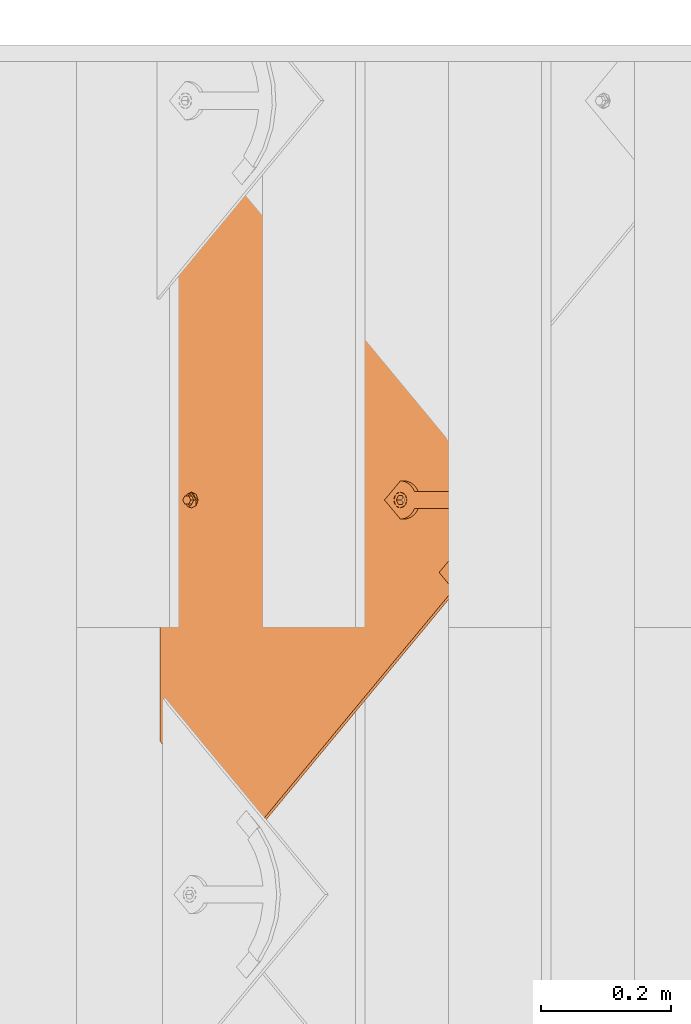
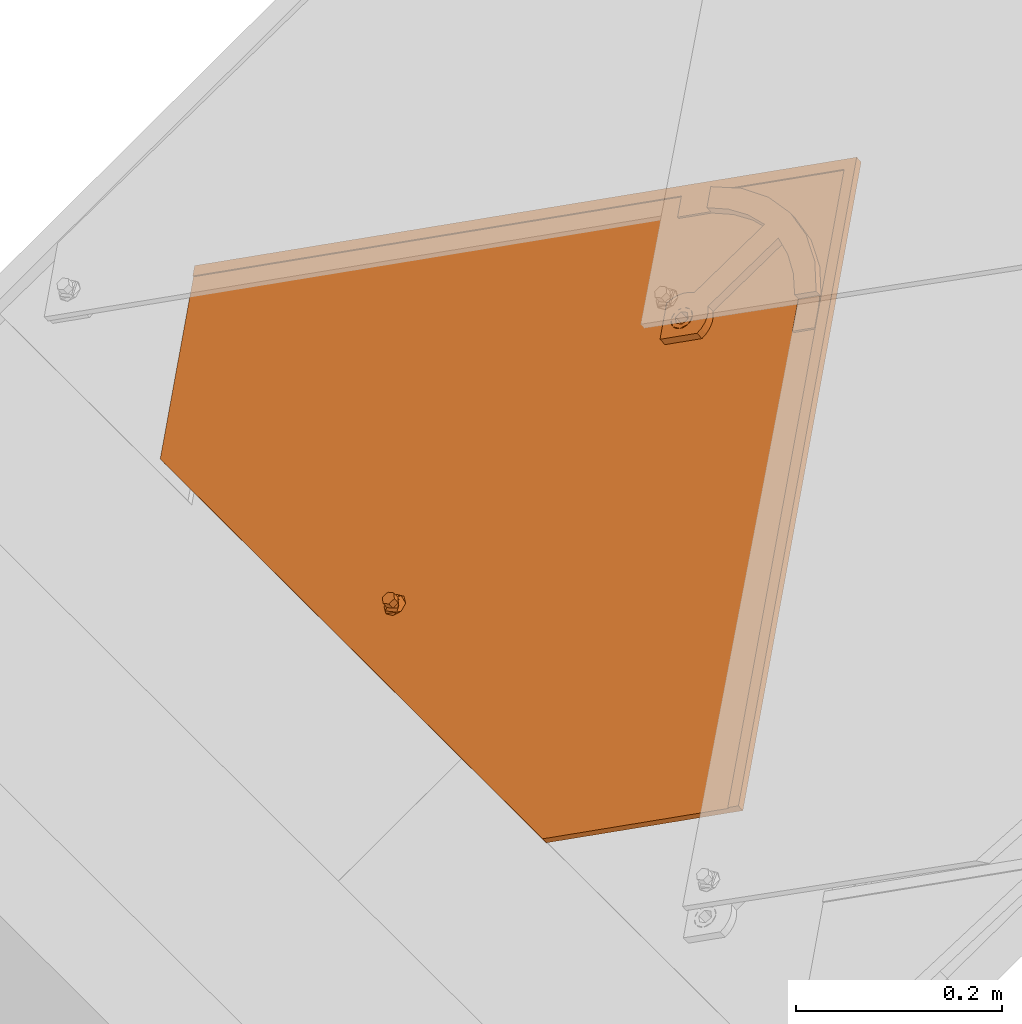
# One storey, part 82 of 133: 1 proxy.
"""IFC2X3 building model written with IfcOpenShell, lengths in millimetres."""

from ifc_helpers import new_model, entity, si_unit, converted_unit, derived_unit, direction, frame, origin, place, context, subcontext, project, spatial, faceted_brep, source, transform, mapped, material, material_list, type_object, type_shapes, element, save


model = new_model("IFC2X3")

# Units and contexts
model_context = context("Model", 3, precision=0.01, world=origin(), true_north=direction((6.12303176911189e-17, 1.0)))
body_context = subcontext(model_context, "Body", "Model", "MODEL_VIEW")
ifc_project = project(units=[si_unit("LENGTHUNIT", "METRE", prefix="MILLI"), si_unit("AREAUNIT", "SQUARE_METRE"), si_unit("VOLUMEUNIT", "CUBIC_METRE"), converted_unit("PLANEANGLEUNIT", "DEGREE", entity("IfcRatioMeasure", 0.0174532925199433), si_unit("PLANEANGLEUNIT", "RADIAN"), dimensions=[0, 0, 0, 0, 0, 0, 0]), si_unit("MASSUNIT", "GRAM", prefix="KILO"), derived_unit("MASSDENSITYUNIT", [(si_unit("MASSUNIT", "GRAM", prefix="KILO"), 1), (si_unit("LENGTHUNIT", "METRE"), -3)]), si_unit("TIMEUNIT", "SECOND"), si_unit("FREQUENCYUNIT", "HERTZ"), si_unit("THERMODYNAMICTEMPERATUREUNIT", "DEGREE_CELSIUS"), derived_unit("THERMALTRANSMITTANCEUNIT", [(si_unit("MASSUNIT", "GRAM", prefix="KILO"), 1), (si_unit("THERMODYNAMICTEMPERATUREUNIT", "KELVIN"), -1), (si_unit("TIMEUNIT", "SECOND"), -3)]), derived_unit("VOLUMETRICFLOWRATEUNIT", [(si_unit("LENGTHUNIT", "METRE"), 3), (si_unit("TIMEUNIT", "SECOND"), -1)]), si_unit("ELECTRICCURRENTUNIT", "AMPERE"), si_unit("ELECTRICVOLTAGEUNIT", "VOLT"), si_unit("POWERUNIT", "WATT"), si_unit("FORCEUNIT", "NEWTON", prefix="KILO"), si_unit("ILLUMINANCEUNIT", "LUX"), si_unit("LUMINOUSFLUXUNIT", "LUMEN"), si_unit("LUMINOUSINTENSITYUNIT", "CANDELA"), derived_unit("USERDEFINED", [(si_unit("MASSUNIT", "GRAM", prefix="KILO"), -1), (si_unit("LENGTHUNIT", "METRE"), -2), (si_unit("TIMEUNIT", "SECOND"), 3), (si_unit("LUMINOUSFLUXUNIT", "LUMEN"), 1)]), derived_unit("LINEARVELOCITYUNIT", [(si_unit("LENGTHUNIT", "METRE"), 1), (si_unit("TIMEUNIT", "SECOND"), -1)]), si_unit("PRESSUREUNIT", "PASCAL"), derived_unit("USERDEFINED", [(si_unit("LENGTHUNIT", "METRE"), -2), (si_unit("MASSUNIT", "GRAM", prefix="KILO"), 1), (si_unit("TIMEUNIT", "SECOND"), -2)])], contexts=[model_context])

# Site, building, storey
site_placement = place(None, origin())
site = spatial("IfcSite", under=ifc_project, at=site_placement, Name="Default", CompositionType="ELEMENT")
building_placement = place(site_placement, origin())
building = spatial("IfcBuilding", under=site, at=building_placement, CompositionType="ELEMENT")
storey_placement = place(building_placement, origin())
storey = spatial("IfcBuildingStorey", under=building, at=storey_placement, Name="Level 1", CompositionType="ELEMENT", Elevation=0.0)

# Proxy
ifc_material_1 = material(Name="Rubber - Sunstyle - Black")
ifc_material_2 = material(Name="Glass - Sunstyle - Tainted Black")
ifc_material_list_1 = material_list([ifc_material_1, ifc_material_2])
ifc_material_list_2 = material_list([ifc_material_1, ifc_material_2])
building_element_proxy_type = type_object("IfcBuildingElementProxyType", Name="Shingle Bottom - Black", PredefinedType="NOTDEFINED", material=ifc_material_list_2)
shared_shape = source(origin(), body_context, "Body", "Brep", [
    faceted_brep([(0.0, -1.79273515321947, -4.01619789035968), (-5.7742028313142, -5.12600528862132, -3.96037390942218), (-5.77420283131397, -4.75769619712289, 18.0314954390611), (0.0, -1.42442606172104, 17.9756714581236), (-5.77420283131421, -11.792545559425, -3.84872594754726), (-5.77420283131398, -11.4242364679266, 18.143143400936), (0.0, -15.1258156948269, -3.79290196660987), (0.0, -14.7575066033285, 18.1989673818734), (5.77420283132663, -11.7925455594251, -3.84872594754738), (5.77420283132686, -11.4242364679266, 18.1431434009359), (5.77420283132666, -5.12600528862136, -3.96037390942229), (5.77420283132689, -4.75769619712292, 18.031495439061), (-8.60370416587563, -16.6934641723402, 18.2313898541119), (0.0, -20.2567354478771, 18.2910657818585), (-12.1674751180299, -8.09096633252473, 18.0873194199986), (-8.60370416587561, 0.511531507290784, 17.9432489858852), (0.0, 4.07480278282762, 17.8835730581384), (8.60370416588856, 0.511531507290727, 17.9432489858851), (12.1674751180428, -8.09096633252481, 18.0873194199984), (8.60370416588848, -16.6934641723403, 18.2313898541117), (-11.4302228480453, -6.71737066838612, 20.4858706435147), (-9.77051349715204, -8.02009729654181, 22.3189355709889), (0.0, -0.706876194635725, 22.9603444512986), (0.0, 0.533621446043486, 22.3799978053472), (0.0, 2.69117229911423, 21.3706227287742), (-6.32324569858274, -4.35709193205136, 23.021476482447), (-6.32324569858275, -11.6575234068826, 23.1437405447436), (0.0, -18.7571148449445, 21.7298281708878), (0.0, -15.3077391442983, 23.2048725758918), (10.9851748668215, -11.808022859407, 20.3827540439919), (10.123850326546, -8.02413622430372, 22.0777687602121), (6.32324569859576, -4.3570919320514, 23.0214764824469), (6.32324569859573, -11.6575234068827, 23.1437405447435), (-6.32324569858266, -11.5234949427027, 31.146628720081), (0.0, -15.1737106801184, 31.2077607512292), (0.0, -7.8732792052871, 31.0854966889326), (-6.32324569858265, -4.22306346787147, 31.0243646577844), (6.32324569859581, -11.5234949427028, 31.1466287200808), (6.32324569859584, -4.22306346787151, 31.0243646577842), (0.0, -0.57284773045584, 30.963232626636), (0.0, -8.45927542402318, -3.90454992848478)], [[[0, 1, 2, 3]], [[1, 4, 5, 2]], [[4, 6, 7, 5]], [[6, 8, 9, 7]], [[8, 10, 11, 9]], [[10, 0, 3, 11]], [[12, 7, 13]], [[7, 12, 5]], [[14, 5, 12]], [[5, 14, 2]], [[15, 2, 14]], [[3, 2, 15]], [[15, 16, 3]], [[16, 17, 3]], [[11, 3, 17]], [[11, 17, 18]], [[9, 11, 18]], [[18, 19, 9]], [[7, 9, 19]], [[19, 13, 7]], [[15, 20, 16]], [[21, 22, 23, 24]], [[22, 21, 25]], [[20, 14, 12]], [[15, 14, 20]], [[25, 21, 26]], [[20, 24, 16]], [[12, 13, 27]], [[12, 27, 20]], [[21, 28, 26]], [[21, 27, 28]], [[20, 21, 24]], [[20, 27, 21]], [[19, 29, 13]], [[30, 23, 31]], [[30, 28, 27]], [[24, 23, 30]], [[29, 27, 13]], [[19, 18, 29]], [[29, 30, 27]], [[29, 17, 24]], [[24, 17, 16]], [[31, 32, 30]], [[23, 22, 31]], [[28, 30, 32]], [[29, 24, 30]], [[29, 18, 17]], [[33, 34, 35]], [[35, 36, 33]], [[34, 37, 35]], [[38, 35, 37]], [[35, 38, 39]], [[35, 39, 36]], [[40, 6, 4]], [[4, 1, 40]], [[1, 0, 40]], [[40, 8, 6]], [[0, 10, 40]], [[8, 40, 10]], [[22, 25, 36, 39]], [[25, 26, 33, 36]], [[26, 28, 34, 33]], [[28, 32, 37, 34]], [[32, 31, 38, 37]], [[31, 22, 39, 38]]]),
    faceted_brep([(0.0, 372.824876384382, 20.3195200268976), (0.0, 377.324245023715, 20.2441667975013), (-8.60370416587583, 376.388147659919, 20.2598440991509), (8.60370416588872, 376.388147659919, 20.2598440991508), (6.64022859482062, 381.157445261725, 20.1799702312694), (12.1674751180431, 384.990645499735, 20.1157736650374), (6.64022859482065, 388.823845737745, 20.0515770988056), (8.6037041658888, 393.59314333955, 19.9717032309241), (0.0, 392.657045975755, 19.9873805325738), (0.0, 397.156414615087, 19.9120273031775), (-8.60370416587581, 393.59314333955, 19.9717032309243), (-6.64022859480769, 388.823845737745, 20.0515770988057), (-12.1674751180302, 384.990645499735, 20.1157736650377), (-6.6402285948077, 381.157445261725, 20.1799702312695), (-6.6402282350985, 388.555922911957, 4.05382046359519), (0.0, 392.389122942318, 3.98962390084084), (-6.64022823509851, 380.889522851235, 4.18221358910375), (0.0, 377.056322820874, 4.24641015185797), (6.64022823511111, 380.889522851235, 4.18221358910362), (6.64022823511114, 388.555922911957, 4.05382046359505), (-8.603704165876, 376.12022504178, 4.26208746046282), (0.0, 372.556953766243, 4.32176338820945), (-12.1674751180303, 384.722722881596, 4.11801702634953), (-8.60370416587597, 393.325220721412, 3.97394659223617), (0.0, 396.888491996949, 3.91427066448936), (8.60370416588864, 393.325220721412, 3.97394659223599), (12.1674751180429, 384.722722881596, 4.11801702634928), (8.60370416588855, 376.12022504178, 4.26208746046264)], [[[0, 1, 2]], [[1, 0, 3]], [[3, 4, 1]], [[4, 3, 5]], [[6, 4, 5]], [[5, 7, 6]], [[7, 8, 6]], [[8, 7, 9]], [[8, 9, 10]], [[10, 11, 8]], [[12, 11, 10]], [[2, 13, 12]], [[12, 13, 11]], [[13, 2, 1]], [[8, 11, 14, 15]], [[11, 13, 16, 14]], [[13, 1, 17, 16]], [[1, 4, 18, 17]], [[4, 6, 19, 18]], [[6, 8, 15, 19]], [[20, 17, 21]], [[17, 20, 16]], [[22, 16, 20]], [[14, 16, 22]], [[23, 14, 22]], [[15, 14, 23]], [[23, 24, 15]], [[24, 25, 15]], [[19, 15, 25]], [[19, 25, 26]], [[26, 18, 19]], [[26, 27, 18]], [[17, 18, 27]], [[27, 21, 17]], [[24, 23, 10, 9]], [[10, 23, 22, 12]], [[20, 21, 0, 2]], [[20, 2, 12, 22]], [[21, 27, 3, 0]], [[3, 27, 26, 5]], [[25, 24, 9, 7]], [[25, 7, 5, 26]]]),
    faceted_brep([(518.247351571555, 79.9143812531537, 14.965257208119), (526.732038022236, 88.3990677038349, 14.8231598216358), (526.732038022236, 88.4241854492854, 16.3229495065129), (518.247351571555, 79.9394989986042, 16.4650468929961), (0.000322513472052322, 598.016093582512, 6.28834266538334), (-518.246706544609, 79.9143812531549, 14.9652572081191), (-526.73139299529, 88.3990677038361, 14.8231598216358), (0.000322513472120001, 614.983087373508, 6.00418773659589), (0.000322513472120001, 615.008205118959, 7.50397742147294), (-526.731392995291, 88.4241854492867, 16.3229495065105), (-518.246706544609, 79.9394989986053, 16.465046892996), (0.000322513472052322, 598.041211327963, 7.78813235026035)], [[[0, 1, 2, 3]], [[1, 0, 4, 5, 6, 7]], [[2, 1, 7, 8]], [[3, 2, 8, 9, 10, 11]], [[0, 3, 11, 4]], [[5, 10, 9, 6]], [[8, 7, 6, 9]], [[4, 11, 10, 5]]]),
    faceted_brep([(0.00032251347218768, 614.983087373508, 6.00418773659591), (-2.87802047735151, 396.187349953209, 9.66847193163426), (0.227808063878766, 396.596182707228, 9.6616250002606), (-5.77219193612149, 394.988712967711, 9.68854611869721), (3.3336366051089, 396.187349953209, 9.66847193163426), (6.22780806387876, 394.988712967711, 9.6885461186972), (8.71308943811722, 393.081956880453, 9.72047953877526), (10.620112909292, 390.59702396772, 9.76209598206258), (-8.25747331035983, 393.081956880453, 9.72047953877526), (-10.1644967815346, 390.59702396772, 9.76209598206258), (-11.3633018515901, 387.703258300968, 9.81055935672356), (-526.731392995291, 88.3990677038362, 14.8231598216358), (11.8189179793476, 387.703258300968, 9.81055935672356), (526.732038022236, 88.3990677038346, 14.8231598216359), (-11.7721919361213, 384.597865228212, 9.86256696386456), (-11.3633018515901, 381.492472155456, 9.91457457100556), (-10.1644967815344, 378.598706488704, 9.96303794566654), (-370.355016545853, -67.9334607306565, 17.4413406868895), (-8.25747331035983, 376.113773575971, 10.0046543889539), (-5.65685424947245, -2.29422365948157, 16.3420467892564), (-6.92820323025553, -3.95084560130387, 16.3697910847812), (-7.72740661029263, -5.88002271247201, 16.4021000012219), (-8.0, -7.95028476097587, 16.4367717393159), (-7.72740661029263, -10.0205468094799, 16.4714434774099), (-6.9282032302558, -11.9497239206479, 16.5037523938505), (-5.65685424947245, -13.6063458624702, 16.5314966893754), (-4.0, -14.8775165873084, 16.5527856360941), (-2.07055236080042, -15.676607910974, 16.5661684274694), (0.0, -15.9491630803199, 16.5707330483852), (370.355661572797, -67.9334607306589, 17.4413406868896), (10.620112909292, 378.598706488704, 9.96303794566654), (8.71308943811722, 376.11377357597, 10.0046543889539), (5.65685424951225, -2.29422365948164, 16.3420467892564), (6.92820323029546, -3.9508456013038, 16.3697910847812), (7.72740661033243, -5.88002271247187, 16.4021000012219), (8.0, -7.9502847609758, 16.4367717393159), (7.72740661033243, -10.0205468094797, 16.4714434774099), (6.92820323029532, -11.9497239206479, 16.5037523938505), (5.65685424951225, -13.6063458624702, 16.5314966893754), (4.0, -14.8775165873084, 16.5527856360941), (2.07055236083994, -15.676607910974, 16.5661684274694), (-5.77219193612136, 374.207017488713, 10.0365878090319), (-4.0, -1.02305293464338, 16.3207578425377), (-2.87802047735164, 373.008380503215, 10.0566619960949), (-2.07055236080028, -0.223961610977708, 16.3073750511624), (0.227808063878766, 372.599547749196, 10.0635089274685), (0.0, 0.0485935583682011, 16.3028104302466), (2.07055236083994, -0.223961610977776, 16.3073750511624), (3.3336366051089, 373.008380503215, 10.0566619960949), (4.0, -1.02305293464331, 16.3207578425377), (6.22780806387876, 374.207017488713, 10.0365878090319), (12.2278080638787, 384.597865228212, 9.86256696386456), (11.8189179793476, 381.492472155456, 9.91457457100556), (-370.355016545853, -68.059049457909, 9.94239226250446), (-6.92820323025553, -4.07643432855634, 8.87084266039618), (-7.72740661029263, -6.00561143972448, 8.90315157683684), (-8.0, -8.07587348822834, 8.93782331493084), (-7.72740661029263, -10.1461355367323, 8.97249505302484), (-6.9282032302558, -12.0753126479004, 9.00480396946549), (-5.65685424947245, -13.7319345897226, 9.03254826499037), (-5.65685424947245, -2.41981238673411, 8.8430983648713), (-8.25747331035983, 375.988184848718, 2.50570596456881), (-4.0, -15.0031053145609, 9.05383721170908), (-2.07055236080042, -15.8021966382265, 9.06722000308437), (0.0, -16.0747518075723, 9.07178462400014), (370.355661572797, -68.0590494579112, 9.9423922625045), (-10.1644967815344, 378.473117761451, 2.46408952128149), (-526.731392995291, 88.2734789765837, 7.32421139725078), (-11.3633018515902, 381.366883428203, 2.41562614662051), (-11.7721919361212, 384.472276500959, 2.36361853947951), (-11.3633018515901, 387.577669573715, 2.3116109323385), (0.00032251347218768, 614.857498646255, -1.49476068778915), (-10.1644967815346, 390.471435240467, 2.26314755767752), (-8.25747331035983, 392.956368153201, 2.22153111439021), (-5.77219193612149, 394.863124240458, 2.18959769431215), (-2.87802047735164, 396.061761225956, 2.16952350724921), (0.227808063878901, 396.470593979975, 2.16267657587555), (3.3336366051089, 396.061761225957, 2.1695235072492), (6.22780806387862, 394.863124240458, 2.18959769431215), (8.71308943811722, 392.956368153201, 2.2215311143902), (10.620112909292, 390.471435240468, 2.26314755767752), (11.8189179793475, 387.577669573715, 2.31161093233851), (526.732038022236, 88.2734789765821, 7.32421139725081), (12.2278080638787, 384.472276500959, 2.3636185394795), (10.620112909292, 378.473117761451, 2.46408952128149), (11.8189179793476, 381.366883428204, 2.41562614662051), (-5.77219193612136, 374.08142876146, 2.53763938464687), (-4.0, -1.14864166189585, 8.8218094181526), (-2.87802047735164, 372.882791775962, 2.55771357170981), (-2.07055236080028, -0.349550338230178, 8.8084266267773), (0.227808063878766, 372.473959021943, 2.56456050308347), (0.0, -0.0769951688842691, 8.80386200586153), (2.07055236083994, -0.349550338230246, 8.8084266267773), (3.3336366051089, 372.882791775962, 2.55771357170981), (4.0, -1.14864166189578, 8.8218094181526), (6.22780806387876, 374.081428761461, 2.53763938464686), (5.65685424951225, -2.41981238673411, 8.8430983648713), (8.71308943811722, 375.988184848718, 2.50570596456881), (6.92820323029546, -4.07643432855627, 8.87084266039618), (7.72740661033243, -6.00561143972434, 8.90315157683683), (8.0, -8.07587348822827, 8.93782331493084), (7.72740661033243, -10.1461355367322, 8.97249505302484), (6.92820323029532, -12.0753126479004, 9.00480396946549), (5.65685424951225, -13.7319345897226, 9.03254826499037), (4.0, -15.0031053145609, 9.05383721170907), (2.07055236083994, -15.8021966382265, 9.06722000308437)], [[[0, 1, 2]], [[1, 0, 3]], [[0, 2, 4]], [[4, 5, 0]], [[5, 6, 0]], [[0, 6, 7]], [[8, 3, 0]], [[9, 8, 0]], [[9, 0, 10]], [[10, 0, 11]], [[12, 0, 7]], [[12, 13, 0]], [[11, 14, 10]], [[14, 11, 15]], [[16, 15, 11]], [[11, 17, 16]], [[16, 17, 18]], [[19, 18, 17]], [[19, 17, 20]], [[20, 17, 21]], [[22, 21, 17]], [[22, 17, 23]], [[24, 23, 17]], [[17, 25, 24]], [[26, 25, 17]], [[27, 26, 17]], [[17, 28, 27]], [[28, 17, 29]], [[29, 13, 30]], [[29, 30, 31]], [[29, 31, 32]], [[32, 33, 29]], [[33, 34, 29]], [[35, 29, 34]], [[29, 35, 36]], [[36, 37, 29]], [[29, 37, 38]], [[38, 39, 29]], [[40, 28, 29]], [[39, 40, 29]], [[41, 18, 19]], [[42, 41, 19]], [[42, 43, 41]], [[44, 43, 42]], [[44, 45, 43]], [[46, 45, 44]], [[47, 45, 46]], [[48, 45, 47]], [[49, 48, 47]], [[49, 50, 48]], [[32, 50, 49]], [[32, 31, 50]], [[12, 51, 13]], [[52, 13, 51]], [[13, 52, 30]], [[53, 54, 55]], [[53, 55, 56]], [[56, 57, 53]], [[57, 58, 53]], [[53, 58, 59]], [[60, 54, 53]], [[61, 60, 53]], [[59, 62, 53]], [[62, 63, 53]], [[63, 64, 53]], [[53, 64, 65]], [[66, 61, 53]], [[66, 53, 67]], [[68, 66, 67]], [[69, 68, 67]], [[69, 67, 70]], [[67, 71, 70]], [[72, 70, 71]], [[73, 72, 71]], [[71, 74, 73]], [[74, 71, 75]], [[75, 71, 76]], [[77, 76, 71]], [[77, 71, 78]], [[79, 78, 71]], [[71, 80, 79]], [[80, 71, 81]], [[71, 82, 81]], [[83, 81, 82]], [[84, 82, 65]], [[85, 82, 84]], [[82, 85, 83]], [[86, 60, 61]], [[86, 87, 60]], [[88, 87, 86]], [[89, 87, 88]], [[90, 89, 88]], [[90, 91, 89]], [[92, 91, 90]], [[92, 90, 93]], [[94, 92, 93]], [[93, 95, 94]], [[94, 95, 96]], [[97, 96, 95]], [[96, 97, 65]], [[84, 65, 97]], [[98, 96, 65]], [[99, 98, 65]], [[99, 65, 100]], [[101, 100, 65]], [[102, 101, 65]], [[103, 102, 65]], [[104, 103, 65]], [[105, 104, 65]], [[65, 64, 105]], [[11, 0, 71, 67]], [[17, 11, 67, 53]], [[13, 29, 65, 82]], [[0, 13, 82, 71]], [[22, 56, 55, 21]], [[21, 55, 54, 20]], [[42, 19, 60, 87]], [[60, 19, 20, 54]], [[44, 42, 87, 89]], [[44, 89, 91, 46]], [[46, 91, 92, 47]], [[47, 92, 94, 49]], [[33, 32, 96, 98]], [[96, 32, 49, 94]], [[34, 33, 98, 99]], [[34, 99, 100, 35]], [[35, 100, 101, 36]], [[36, 101, 102, 37]], [[39, 38, 103, 104]], [[103, 38, 37, 102]], [[40, 39, 104, 105]], [[40, 105, 64, 28]], [[28, 64, 63, 27]], [[27, 63, 62, 26]], [[24, 25, 59, 58]], [[59, 25, 26, 62]], [[23, 24, 58, 57]], [[23, 57, 56, 22]], [[14, 69, 70, 10]], [[10, 70, 72, 9]], [[3, 8, 73, 74]], [[73, 8, 9, 72]], [[1, 3, 74, 75]], [[1, 75, 76, 2]], [[2, 76, 77, 4]], [[4, 77, 78, 5]], [[7, 6, 79, 80]], [[79, 6, 5, 78]], [[12, 7, 80, 81]], [[12, 81, 83, 51]], [[51, 83, 85, 52]], [[52, 85, 84, 30]], [[50, 31, 97, 95]], [[97, 31, 30, 84]], [[48, 50, 95, 93]], [[48, 93, 90, 45]], [[45, 90, 88, 43]], [[43, 88, 86, 41]], [[16, 18, 61, 66]], [[41, 86, 61, 18]], [[68, 15, 16, 66]], [[15, 68, 69, 14]], [[29, 17, 53, 65]]]),
    faceted_brep([(-111.269043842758, 451.472531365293, 11.2429332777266), (-84.9443960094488, 477.793488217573, 10.8021227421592), (-102.027571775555, 494.874268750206, 10.5160621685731), (-108.279973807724, 489.512620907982, 10.6058564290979), (-114.2509690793, 483.839345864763, 10.7008696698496), (-128.946713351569, 469.147722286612, 10.9469178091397), (128.946713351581, 469.147722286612, 10.9469178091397), (114.250969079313, 483.839345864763, 10.7008696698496), (108.279973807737, 489.512620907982, 10.6058564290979), (102.027571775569, 494.874268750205, 10.5160621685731), (84.9431983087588, 477.794685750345, 10.802102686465), (111.269043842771, 451.472531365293, 11.2429332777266), (-8.48528137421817, 393.302959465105, 19.7181805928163), (-18.7041061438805, 407.484939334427, 19.4806677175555), (-23.2046504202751, 402.851933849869, 19.5582590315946), (-10.3923048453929, 390.818026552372, 19.7597970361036), (-6.0, 395.209715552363, 19.6862471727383), (-13.2999999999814, 411.02298750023, 19.4214142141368), (-3.10582854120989, 396.408352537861, 19.6661729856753), (0.0, 396.81718529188, 19.6593260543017), (13.3000000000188, 411.022987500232, 19.4214142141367), (3.10582854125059, 396.408352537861, 19.6661729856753), (6.0, 395.209715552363, 19.6862471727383), (18.7041061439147, 407.484939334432, 19.4806677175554), (8.48528137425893, 393.302959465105, 19.7181805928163), (23.2046504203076, 402.85193384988, 19.5582590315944), (10.3923048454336, 390.818026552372, 19.7597970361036), (26.5842195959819, 397.347783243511, 19.6504398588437), (11.5911099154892, 387.92426088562, 19.8082604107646), (28.6795527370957, 391.238383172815, 19.752757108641), (12.0, 384.818867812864, 19.8602680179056), (29.3894280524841, 384.818867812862, 19.8602680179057), (11.5911099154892, 381.713474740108, 19.9122756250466), (10.3923048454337, 378.819709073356, 19.9607389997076), (8.48528137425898, 376.334776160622, 20.0023554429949), (0.0, 355.433560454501, 20.3523987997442), (6.0, 374.428020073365, 20.034288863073), (3.10582854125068, 373.229383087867, 20.0543630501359), (0.0, 372.820550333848, 20.0612099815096), (-3.10582854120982, 373.229383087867, 20.0543630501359), (-6.0, 374.428020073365, 20.034288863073), (-8.48528137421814, 376.334776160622, 20.0023554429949), (-29.3894280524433, 384.818867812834, 19.8602680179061), (-10.3923048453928, 378.819709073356, 19.9607389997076), (-11.5911099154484, 381.713474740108, 19.9122756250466), (-12.0, 384.818867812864, 19.8602680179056), (-28.67955273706, 391.238383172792, 19.7527571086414), (-11.5911099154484, 387.92426088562, 19.8082604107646), (-26.5842195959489, 397.347783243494, 19.650439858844), (-13.2999999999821, 505.810987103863, 17.833951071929), (13.3000000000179, 505.810987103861, 17.833951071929), (0.0, 531.282600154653, 17.4073649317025), (36.4908407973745, 527.108634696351, 17.4772684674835), (38.7697427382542, 500.996106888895, 17.9145883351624), (71.096085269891, 514.802420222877, 17.6833669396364), (62.9243331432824, 491.592473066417, 18.0720758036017), (102.027571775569, 494.999857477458, 18.0150105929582), (84.9443960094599, 477.919076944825, 18.3010711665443), (-36.4908407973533, 527.108634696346, 17.4772684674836), (-38.7697427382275, 500.996106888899, 17.9145883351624), (-71.0960852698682, 514.802420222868, 17.6833669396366), (-62.9243331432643, 491.592473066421, 18.0720758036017), (-102.027571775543, 494.999857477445, 18.0150105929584), (-84.9443960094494, 477.919076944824, 18.3010711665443), (0.0, 355.266108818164, 10.3538009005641), (0.0, 372.653098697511, 10.0626120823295), (3.10582854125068, 373.06193145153, 10.0557651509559), (-3.10582854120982, 373.06193145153, 10.0557651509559), (6.0, 374.260568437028, 10.0356909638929), (8.48528137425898, 376.167324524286, 10.0037575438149), (29.3894280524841, 384.651416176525, 9.86167011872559), (-6.0, 374.260568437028, 10.0356909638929), (-8.48528137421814, 376.167324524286, 10.0037575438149), (-29.3894280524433, 384.651416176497, 9.86167011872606), (-10.3923048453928, 378.652257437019, 9.96214110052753), (-11.5911099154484, 381.546023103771, 9.91367772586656), (-12.0, 384.651416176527, 9.86167011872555), (-28.67955273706, 391.070931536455, 9.75415920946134), (-11.5911099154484, 387.756809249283, 9.80966251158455), (-26.5842195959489, 397.180331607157, 9.65184195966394), (-10.3923048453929, 390.650574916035, 9.76119913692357), (-23.2046504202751, 402.684482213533, 9.5596611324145), (-8.48528137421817, 393.135507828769, 9.71958269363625), (-18.7041061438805, 407.31748769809, 9.48206981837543), (-6.0, 395.042263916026, 9.6876492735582), (-13.2999999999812, 410.855535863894, 9.4228163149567), (-3.10582854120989, 396.240900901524, 9.66757508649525), (0.0, 396.649733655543, 9.66072815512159), (13.3000000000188, 410.855535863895, 9.42281631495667), (-13.2999999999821, 505.643535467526, 7.83535317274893), (13.3000000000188, 505.643535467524, 7.83535317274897), (0.0, 531.115148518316, 7.4087670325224), (-36.4908407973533, 526.94118306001, 7.47867056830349), (-38.7697427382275, 500.828655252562, 7.91599043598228), (-71.0960852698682, 514.634968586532, 7.68476904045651), (-62.9243331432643, 491.425021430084, 8.07347790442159), (-102.027571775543, 494.832405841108, 8.01641269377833), (-84.9431983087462, 477.752822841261, 8.30245321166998), (-108.279973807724, 489.470757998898, 8.10620695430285), (-114.2509690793, 483.79748295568, 8.2012201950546), (-111.269043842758, 451.430668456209, 8.74328380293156), (-128.946713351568, 469.105859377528, 8.44726833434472), (36.4908407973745, 526.941183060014, 7.47867056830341), (38.7697427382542, 500.828655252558, 7.91599043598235), (71.096085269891, 514.634968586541, 7.68476904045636), (62.9243331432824, 491.425021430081, 8.07347790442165), (102.027571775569, 494.832405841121, 8.01641269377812), (84.9443960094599, 477.751625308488, 8.30247326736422), (108.279973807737, 489.470757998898, 8.10620695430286), (114.250969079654, 483.797482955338, 8.20122019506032), (111.269043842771, 451.430668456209, 8.74328380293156), (128.946713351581, 469.105859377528, 8.44726833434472), (3.10582854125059, 396.240900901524, 9.66757508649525), (6.0, 395.042263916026, 9.6876492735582), (18.7041061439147, 407.317487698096, 9.48206981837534), (8.48528137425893, 393.135507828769, 9.71958269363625), (23.2046504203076, 402.684482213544, 9.55966113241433), (10.3923048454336, 390.650574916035, 9.76119913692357), (26.5842195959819, 397.180331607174, 9.65184195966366), (11.5911099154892, 387.756809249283, 9.80966251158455), (28.6795527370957, 391.070931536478, 9.75415920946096), (12.0, 384.651416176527, 9.86167011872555), (11.5911099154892, 381.546023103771, 9.91367772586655), (10.3923048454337, 378.652257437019, 9.96214110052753)], [[[0, 1, 2, 3, 4, 5]], [[6, 7, 8, 9, 10, 11]], [[12, 13, 14]], [[15, 12, 14]], [[16, 13, 12]], [[13, 16, 17]], [[17, 16, 18]], [[18, 19, 17]], [[20, 17, 19]], [[19, 21, 20]], [[22, 20, 21]], [[22, 23, 20]], [[22, 24, 23]], [[25, 23, 24]], [[26, 25, 24]], [[25, 26, 27]], [[26, 28, 27]], [[29, 27, 28]], [[28, 30, 29]], [[31, 29, 30]], [[30, 32, 31]], [[32, 33, 31]], [[31, 33, 34]], [[34, 35, 31]], [[34, 36, 35]], [[37, 35, 36]], [[38, 35, 37]], [[35, 38, 39]], [[40, 35, 39]], [[40, 41, 35]], [[42, 35, 41]], [[43, 42, 41]], [[43, 44, 42]], [[44, 45, 42]], [[45, 46, 42]], [[46, 45, 47]], [[48, 46, 47]], [[47, 15, 48]], [[48, 15, 14]], [[20, 49, 17]], [[49, 20, 50]], [[51, 49, 50]], [[50, 52, 51]], [[53, 52, 50]], [[52, 53, 54]], [[55, 54, 53]], [[54, 55, 56]], [[55, 57, 56]], [[58, 49, 51]], [[49, 58, 59]], [[60, 59, 58]], [[60, 61, 59]], [[61, 60, 62]], [[61, 62, 63]], [[64, 65, 66]], [[65, 64, 67]], [[64, 66, 68]], [[68, 69, 64]], [[64, 69, 70]], [[71, 67, 64]], [[71, 64, 72]], [[72, 64, 73]], [[73, 74, 72]], [[74, 73, 75]], [[76, 75, 73]], [[77, 76, 73]], [[76, 77, 78]], [[78, 77, 79]], [[80, 78, 79]], [[81, 80, 79]], [[82, 80, 81]], [[81, 83, 82]], [[83, 84, 82]], [[84, 83, 85]], [[85, 86, 84]], [[87, 86, 85]], [[87, 85, 88]], [[88, 85, 89]], [[88, 89, 90]], [[89, 91, 90]], [[91, 89, 92]], [[93, 92, 89]], [[94, 92, 93]], [[93, 95, 94]], [[95, 96, 94]], [[97, 96, 95]], [[98, 96, 97]], [[99, 98, 97]], [[97, 100, 99]], [[101, 99, 100]], [[102, 90, 91]], [[90, 102, 103]], [[104, 103, 102]], [[103, 104, 105]], [[105, 104, 106]], [[107, 105, 106]], [[107, 106, 108]], [[109, 107, 108]], [[110, 107, 109]], [[111, 110, 109]], [[87, 88, 112]], [[113, 112, 88]], [[114, 113, 88]], [[115, 113, 114]], [[115, 114, 116]], [[116, 117, 115]], [[116, 118, 117]], [[117, 118, 119]], [[119, 118, 120]], [[121, 119, 120]], [[120, 70, 121]], [[122, 121, 70]], [[70, 69, 123]], [[123, 122, 70]], [[17, 49, 89, 85]], [[13, 17, 85, 83]], [[14, 13, 83, 81]], [[81, 79, 48, 14]], [[46, 48, 79, 77]], [[42, 46, 77, 73]], [[35, 42, 73, 64]], [[31, 35, 64, 70]], [[29, 31, 70, 120]], [[27, 29, 120, 118]], [[118, 116, 25, 27]], [[23, 25, 116, 114]], [[20, 23, 114, 88]], [[50, 20, 88, 90]], [[9, 106, 104, 54, 56]], [[52, 54, 104, 102]], [[51, 52, 102, 91]], [[58, 51, 91, 92]], [[94, 96, 2, 62, 60]], [[60, 58, 92, 94]], [[45, 76, 78, 47]], [[47, 78, 80, 15]], [[16, 12, 82, 84]], [[80, 82, 12, 15]], [[18, 16, 84, 86]], [[87, 19, 18, 86]], [[21, 112, 113, 22]], [[22, 113, 115, 24]], [[28, 26, 117, 119]], [[115, 117, 26, 24]], [[30, 28, 119, 121]], [[21, 19, 87, 112]], [[30, 121, 122, 32]], [[32, 122, 123, 33]], [[36, 34, 69, 68]], [[123, 69, 34, 33]], [[37, 36, 68, 66]], [[65, 38, 37, 66]], [[39, 67, 71, 40]], [[40, 71, 72, 41]], [[44, 43, 74, 75]], [[72, 74, 43, 41]], [[45, 44, 75, 76]], [[39, 38, 65, 67]], [[7, 6, 111, 109]], [[6, 11, 110, 111]], [[7, 109, 108, 8]], [[108, 106, 9, 8]], [[11, 10, 107, 110]], [[0, 5, 101, 100]], [[1, 0, 100, 97]], [[2, 96, 98, 3]], [[98, 99, 4, 3]], [[5, 4, 99, 101]], [[63, 62, 2, 1]], [[56, 57, 10]], [[10, 9, 56]], [[1, 95, 61, 63]], [[1, 97, 95]], [[93, 89, 49, 59]], [[95, 93, 59, 61]], [[90, 103, 53, 50]], [[103, 105, 55, 53]], [[10, 57, 55]], [[107, 10, 105]], [[55, 105, 10]]]),
])
type_shapes(building_element_proxy_type, [shared_shape])
proxy_placement = place(storey_placement, frame((-2327.24013143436, 3251.70434847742, 355.972593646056), z_axis=(-0.57357643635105, 0.0, 0.819152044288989), x_axis=(0.0, -1.0, 0.0)))
element("IfcBuildingElementProxy", 1, at=proxy_placement, inside=storey, type_object=building_element_proxy_type, material=ifc_material_list_1, Name="Roofing_Panels_SunStyle_Tile_Shingle-Bottom:Shingle Bottom - Black", ObjectType="Roofing_Panels_SunStyle_Tile_Shingle-Bottom:Shingle Bottom - Black", context=body_context, shape_type="MappedRepresentation", body=[
    mapped(shared_shape, transform((0.0, 0.0, 0.0), scale=1.0)),
])

save(model, "model.ifc")
